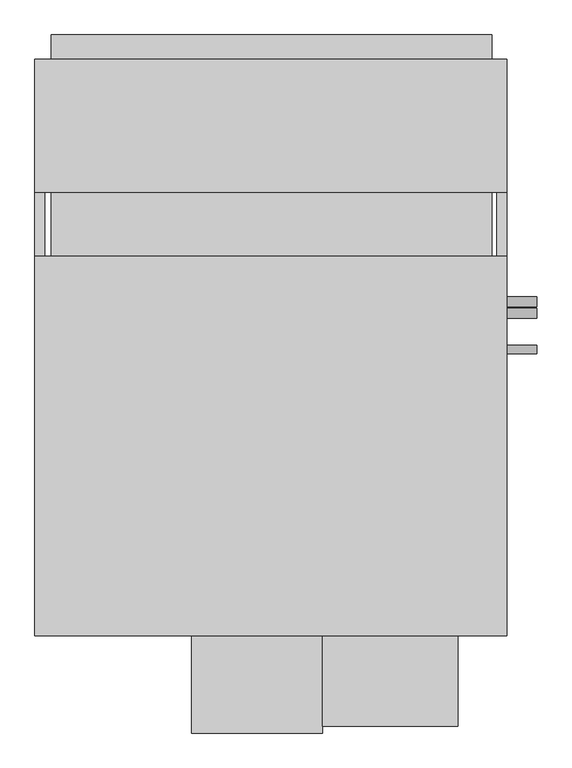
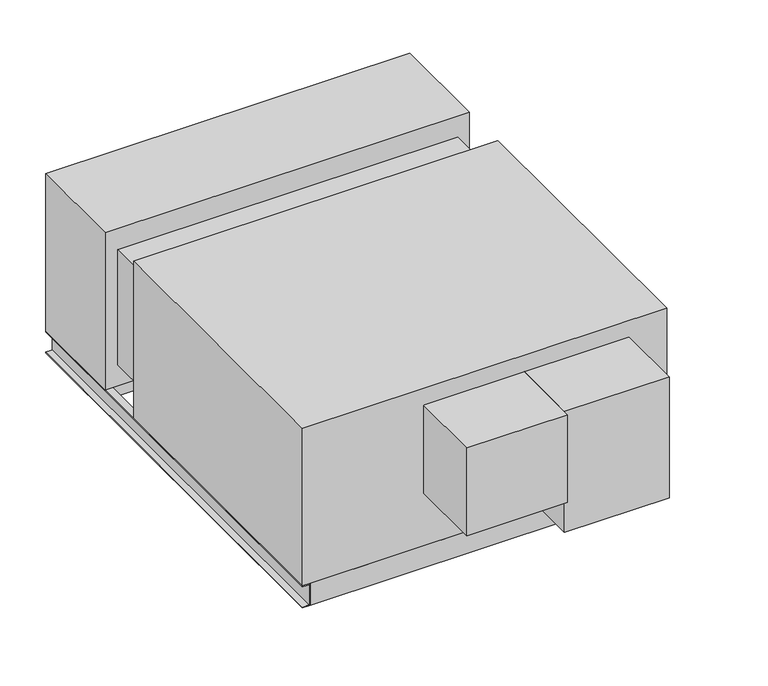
"""IFC4 building model written with IfcOpenShell, lengths in millimetres: proxy geometry, Horizontal_Direct_Drive_Blower_Coil_Unit_-_42DHA_-_CARRIER_-_2-Pipe_Cool-EHeat_NFilterR_W-MixingBox_RH_2022 : Size 16 - 460v/60Hz/3Ph - 8 Row 16.0kW LH."""

from ifc_helpers import new_model, si_unit, point, frame, frame_2d, origin, place, context, project, spatial, polyline, circle_curve, trimmed, segment, composite_curve, outline, extrude, source, transform, mapped, element, save


def mechanical_equipment_b74952a9(model_context):
    return source(origin(), model_context, "Body", "SweptSolid", [
        extrude(outline(polyline([(88.9, 889.635), (88.9, 686.435), (-1025.525, 686.435), (-1025.525, 889.635), (88.9, 889.635)])), frame((0.0, 0.0, -607.06), z_axis=(0.0, 0.0, 1.0), x_axis=(1.0, 0.0, 0.0)), (0.0, 0.0, 1.0), 60.96),
        extrude(outline(polyline([(-1025.525, 1052.195), (88.9, 1052.195), (88.9, 991.235), (-1025.525, 991.235), (-1025.525, 1052.195)])), frame((0.0, 0.0, -279.4), z_axis=(0.0, 0.0, 1.0), x_axis=(1.0, 0.0, 0.0)), (0.0, 0.0, 1.0), 203.2),
        extrude(outline(polyline([(127.0, 991.235), (127.0, 654.05), (-1066.8, 654.05), (-1066.8, 991.235), (127.0, 991.235)])), frame((0.0, 0.0, -546.1), z_axis=(0.0, 0.0, 1.0), x_axis=(1.0, 0.0, 0.0)), (0.0, 0.0, 1.0), 546.1),
        extrude(outline(polyline([(101.6, -441.325), (101.6, -466.725), (-1041.4, -466.725), (-1041.4, -441.325), (101.6, -441.325)])), frame((0.0, 0.0, -622.3), z_axis=(0.0, 0.0, 1.0), x_axis=(1.0, 0.0, 0.0)), (0.0, 0.0, 1.0), 76.2),
        extrude(outline(polyline([(101.6, 991.235), (101.6, 965.835), (-1041.4, 965.835), (-1041.4, 991.235), (101.6, 991.235)])), frame((0.0, 0.0, -622.3), z_axis=(0.0, 0.0, 1.0), x_axis=(1.0, 0.0, 0.0)), (0.0, 0.0, 1.0), 76.2),
        extrude(outline(polyline([(-546.1, -1041.4), (-546.1, -1066.8), (-549.275, -1066.8), (-549.275, -1044.575), (-619.125, -1044.575), (-619.125, -1066.8), (-622.3, -1066.8), (-622.3, -1041.4), (-546.1, -1041.4)])), frame((0.0, -466.725, 0.0), z_axis=(0.0, 1.0, 0.0), x_axis=(0.0, 0.0, 1.0)), (0.0, 0.0, 1.0), 1457.96),
        extrude(outline(polyline([(-546.1, 101.6), (-622.3, 101.6), (-622.3, 127.0), (-619.125, 127.0), (-619.125, 104.775), (-549.275, 104.775), (-549.275, 127.0), (-546.1, 127.0), (-546.1, 101.6)])), frame((0.0, -466.725, 0.0), z_axis=(0.0, 1.0, 0.0), x_axis=(0.0, 0.0, 1.0)), (0.0, 0.0, 1.0), 1457.96),
        extrude(outline(composite_curve([segment(trimmed(circle_curve(frame_2d((377.825, -177.8)), 12.7), [point((390.525, -177.8))], [point((365.125, -177.8))], False, "CARTESIAN"), True, "CONTINUOUS"), segment(trimmed(circle_curve(frame_2d((377.825, -177.8)), 12.7), [point((365.125, -177.8))], [point((390.525, -177.8))], False, "CARTESIAN"), True, "CONTINUOUS")], self_intersect=False)), frame((127.0, 0.0, 0.0), z_axis=(1.0, 0.0, 0.0), x_axis=(0.0, 1.0, 0.0)), (0.0, 0.0, 1.0), 76.2),
        extrude(outline(composite_curve([segment(trimmed(circle_curve(frame_2d((348.9715397, -419.1)), 12.7), [point((361.6715397, -419.1))], [point((336.2715397, -419.1))], False, "CARTESIAN"), True, "CONTINUOUS"), segment(trimmed(circle_curve(frame_2d((348.9715397, -419.1)), 12.7), [point((336.2715397, -419.1))], [point((361.6715397, -419.1))], False, "CARTESIAN"), True, "CONTINUOUS")], self_intersect=False)), frame((127.0, 0.0, 0.0), z_axis=(1.0, 0.0, 0.0), x_axis=(0.0, 1.0, 0.0)), (0.0, 0.0, 1.0), 76.2),
        extrude(outline(composite_curve([segment(trimmed(circle_curve(frame_2d((257.175, -501.65)), 11.1125), [point((268.2875, -501.65))], [point((246.0625, -501.65))], False, "CARTESIAN"), True, "CONTINUOUS"), segment(trimmed(circle_curve(frame_2d((257.175, -501.65)), 11.1125), [point((246.0625, -501.65))], [point((268.2875, -501.65))], False, "CARTESIAN"), True, "CONTINUOUS")], self_intersect=False)), frame((127.0, 0.0, 0.0), z_axis=(1.0, 0.0, 0.0), x_axis=(0.0, 1.0, 0.0)), (0.0, 0.0, 1.0), 76.2),
        extrude(outline(polyline([(127.0, 492.125), (127.0, -466.725), (-1066.8, -466.725), (-1066.8, 492.125), (127.0, 492.125)])), frame((0.0, 0.0, -546.1), z_axis=(0.0, 0.0, 1.0), x_axis=(1.0, 0.0, 0.0)), (0.0, 0.0, 1.0), 546.1),
        extrude(outline(polyline([(3.175, -695.325), (-339.725, -695.325), (-339.725, -466.725), (3.175, -466.725), (3.175, -695.325)])), frame((0.0, 0.0, -476.25), z_axis=(0.0, 0.0, 1.0), x_axis=(1.0, 0.0, 0.0)), (0.0, 0.0, 1.0), 419.1),
        extrude(outline(polyline([(-1025.525, 654.05), (88.9, 654.05), (88.9, 492.125), (-1025.525, 492.125), (-1025.525, 654.05)])), frame((0.0, 0.0, -473.075), z_axis=(0.0, 0.0, 1.0), x_axis=(1.0, 0.0, 0.0)), (0.0, 0.0, 1.0), 400.05),
        extrude(outline(polyline([(-339.725, -712.7875), (-669.925, -712.7875), (-669.925, -466.725), (-339.725, -466.725), (-339.725, -712.7875)])), frame((0.0, 0.0, -361.95), z_axis=(0.0, 0.0, 1.0), x_axis=(1.0, 0.0, 0.0)), (0.0, 0.0, 1.0), 304.8),
    ])


if __name__ == "__main__":
    model = new_model("IFC4")
    model_context = context("Model", 3, world=origin())
    ifc_project = project(units=[si_unit("LENGTHUNIT", "METRE", prefix="MILLI")], contexts=[model_context])
    site = spatial("IfcSite", under=ifc_project)
    building = spatial("IfcBuilding", under=site)
    placement = place(None, origin())
    mechanical_equipment_shape = mechanical_equipment_b74952a9(model_context)
    element("IfcBuildingElementProxy", 1, Name="Horizontal_Direct_Drive_Blower_Coil_Unit_-_42DHA_-_CARRIER_-_2-Pipe_Cool-EHeat_NFilterR_W-MixingBox_RH_2022 : Size 16 - 460v/60Hz/3Ph - 8 Row 16.0kW LH", ObjectType="Horizontal_Direct_Drive_Blower_Coil_Unit_-_42DHA_-_CARRIER_-_2-Pipe_Cool-EHeat_NFilterR_W-MixingBox_RH_2022 : Size 16 - 460v/60Hz/3Ph - 8 Row 16.0kW LH", at=placement, inside=building, context=model_context, shape_type="MappedRepresentation", body=[
        mapped(mechanical_equipment_shape, transform((0.0, 0.0, 0.0), x_axis=(1.0, 0.0, 0.0), y_axis=(0.0, 1.0, 0.0), z_axis=(0.0, 0.0, 1.0))),
    ])
    save(model, "model.ifc")
